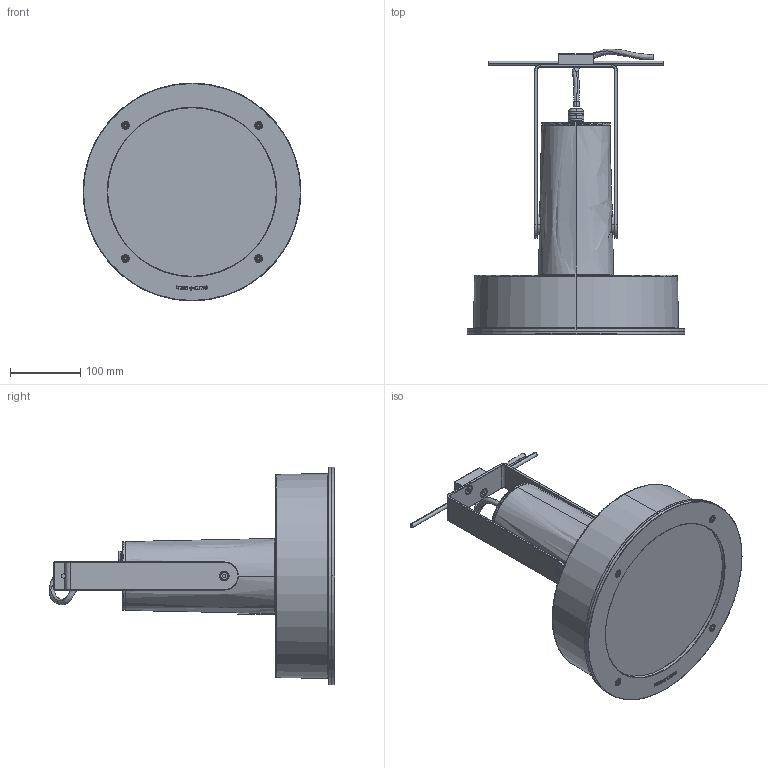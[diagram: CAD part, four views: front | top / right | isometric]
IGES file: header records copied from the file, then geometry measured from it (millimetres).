
Start section: SolidWorks IGES file using analytic representation for surfaces
Global section: file name: C:\SANTACOLE_PDM\Proyectos Catálogo\PROD-P12-019 -- ARNE PROYECTOR LED\6_Técnico comercial\3D WEB\IGES\Arne catenaria.IGS; native system: SolidWorks 2013; preprocessor: SolidWorks 2013; author: jordi.munoz; date: 150513.132642; units: millimetre
Bounding box: 310 x 407 x 310 mm (x, y, z)
Surface area: 690618.1 mm2 (no closed solid volume)
Topology: 0 solids, 0 shells, 1528 faces, 13702 edges, 13678 vertices
Faces by surface type: bspline 1064, revolution 464
